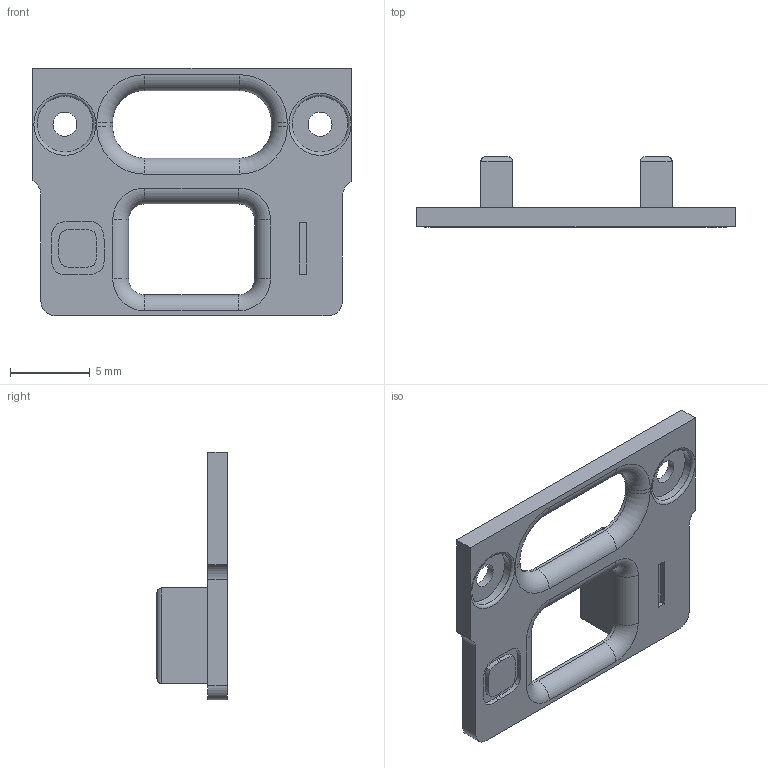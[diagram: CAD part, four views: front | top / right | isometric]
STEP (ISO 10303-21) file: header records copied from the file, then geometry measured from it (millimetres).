
FILE_DESCRIPTION(/* description */ (''),/* implementation_level */ '2;1');
FILE_NAME(/* name */ 'switch_cover.step',/* time_stamp */ '2026-07-06T12:53:52-05:00',/* author */ (''),/* organization */ (''),/* preprocessor_version */ 'ST-DEVELOPER v20.1',/* originating_system */ 'Autodesk Translation Framework v15.8.0.0',/* authorisation */ '');
FILE_SCHEMA (('AUTOMOTIVE_DESIGN { 1 0 10303 214 3 1 1 }'));
Length unit declared in the file: millimetre
Products named in the file (1): SaturnixLite_Hull
Bounding box: 19.96 x 4.4 x 15.52 mm (x, y, z)
Volume: 308.8 mm3; surface area: 676.5 mm2
Topology: 1 solids, 1 shells, 102 faces, 258 edges, 164 vertices
Faces by surface type: plane 44, cylinder 32, bspline 16, torus 10
Full cylindrical faces by diameter (mm): 1.5 x2, 3.5 x2
Entity records: 3133 total; most frequent: CARTESIAN_POINT 775, ORIENTED_EDGE 516, DIRECTION 456, EDGE_CURVE 258, VERTEX_POINT 164, AXIS2_PLACEMENT_3D 157, LINE 142, VECTOR 142
